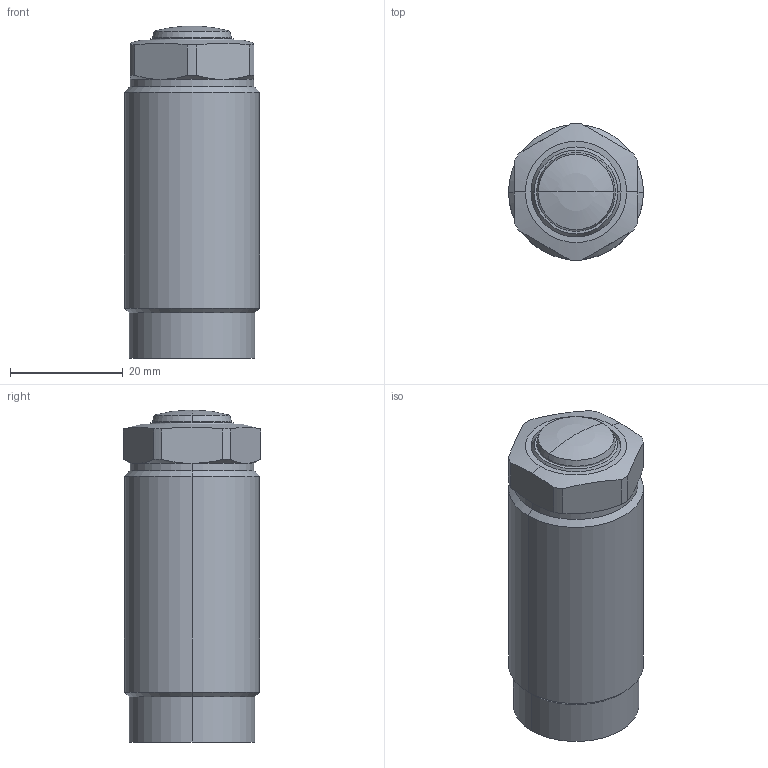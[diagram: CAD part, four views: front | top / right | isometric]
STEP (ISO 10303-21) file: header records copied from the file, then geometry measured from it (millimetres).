
FILE_DESCRIPTION((' '),'2;1');
FILE_NAME( 'TGP24-RL.x_t.stp', '2025-02-10T16:03:52', (' '), ('--- Datakit www.datakit.com---'), ' Datakit CrossCadWare V2024.1 Dec 21 2023', 'Mastercam 2025', ' ');
FILE_SCHEMA(('AUTOMOTIVE_DESIGN { 1 0 10303 214 1 1 1 1 }'));
Length unit declared in the file: millimetre
Products named in the file (1): TGP24-RL
Bounding box: 24 x 24.49 x 59 mm (x, y, z)
Volume: 27707.6 mm3; surface area: 6572.7 mm2
Topology: 2 solids, 2 shells, 65 faces, 147 edges, 89 vertices
Faces by surface type: cylinder 26, cone 18, plane 15, torus 4, sphere 2
Entity records: 1906 total; most frequent: CARTESIAN_POINT 418, DIRECTION 334, ORIENTED_EDGE 286, AXIS2_PLACEMENT_3D 145, EDGE_CURVE 143, VERTEX_POINT 89, CIRCLE 79, EDGE_LOOP 72
